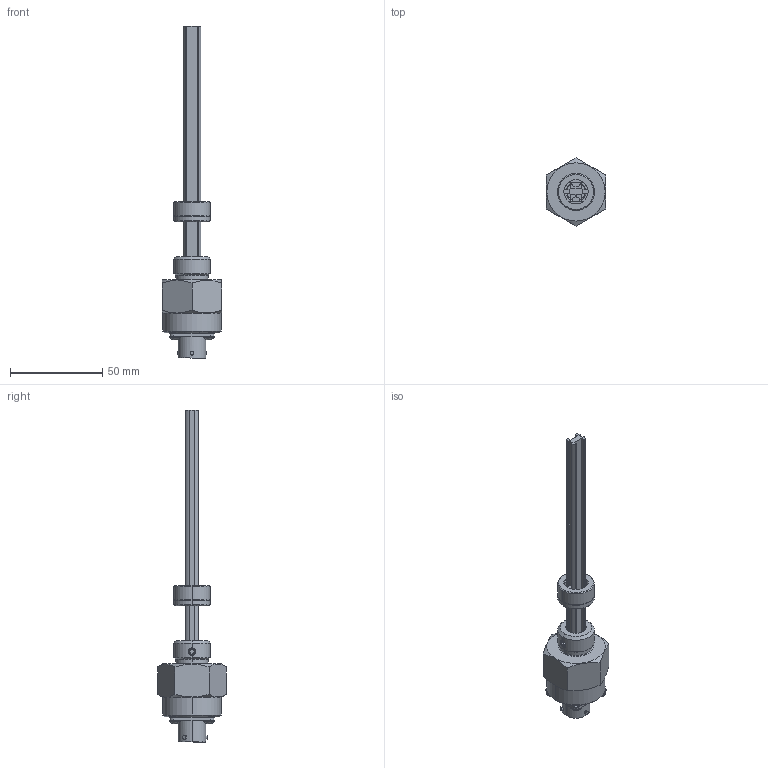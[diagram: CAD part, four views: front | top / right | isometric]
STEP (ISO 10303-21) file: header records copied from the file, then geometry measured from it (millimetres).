
FILE_DESCRIPTION (( 'STEP AP203' ), '1' );
FILE_NAME ('IC-C-100-E-M.STEP', '2015-09-18T09:32:00', ( '' ), ( '' ), 'SwSTEP 2.0', 'SolidWorks 2015', '' );
FILE_SCHEMA (( 'CONFIG_CONTROL_DESIGN' ));
Length unit declared in the file: millimetre
Products named in the file (12): GUA030X; PUN025X; MIM837X; IC-C-100-E-M; SUP085X; MIM308X_MIM308; TTAP078X; FLA081X; PKIT075X; CUR080X; CON302X; CUR081X
Assembly tree (16 placements, depth 3):
  IC-C-100-E-M
    SUP085X
    MIM308X_MIM308  x2
    TTAP078X
    FLA081X
    PKIT075X
      CUR080X
      CUR081X
      PUN025X  x2
    CON302X
    GUA030X
    MIM837X  x4
Bounding box: 32 x 36.95 x 179.6 mm (x, y, z)
Volume: 33258.3 mm3; surface area: 20338.4 mm2
Topology: 15 solids, 15 shells, 976 faces, 2428 edges, 1520 vertices
Faces by surface type: plane 324, cone 286, cylinder 272, bspline 60, torus 26, sphere 8
Entity records: 24822 total; most frequent: CARTESIAN_POINT 7544, DIRECTION 3308, ORIENTED_EDGE 3288, EDGE_CURVE 1644, AXIS2_PLACEMENT_3D 1200, VERTEX_POINT 1052, LINE 908, VECTOR 908
